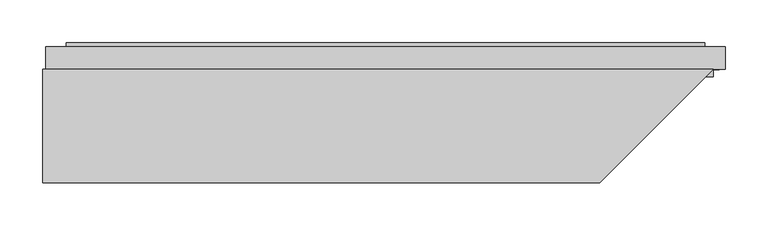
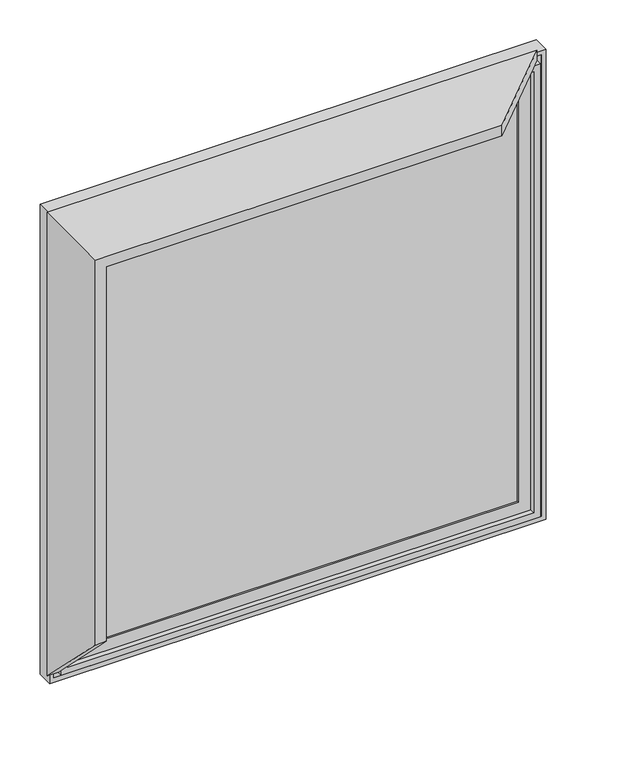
"""IFC4 building model written with IfcOpenShell, lengths in millimetres: plate geometry, SCISSOR PANEL : SCISSOR PANEL."""

from ifc_helpers import new_model, si_unit, frame, origin, place, context, project, spatial, polyline, outline, extrude, faceted_brep, source, transform, mapped, element, save


def plate_83ba0481(model_context):
    return source(origin(), model_context, "Body", "SolidModel", [
        faceted_brep([(382.5, 132.5, 782.5), (-382.5, 132.5, 782.5), (-382.5, 132.5, 17.5), (-400.0, 132.5, 17.5), (-400.0, 132.5, 800.0), (382.5, 132.5, 800.0), (-382.5, 0.0, 782.5), (-382.5, 0.0, 150.0), (-400.0, 0.0, 150.0), (250.0, 0.0, 800.0), (250.0, 0.0, 782.5), (-400.0, 0.0, 800.0)], [[[0, 1, 2, 3, 4, 5]], [[2, 1, 6, 7]], [[7, 8, 3, 2]], [[9, 10, 0, 5]], [[11, 8, 7, 6, 10, 9]], [[11, 4, 3, 8]], [[4, 11, 9, 5]], [[1, 0, 10, 6]]]),
        extrude(outline(polyline([(-369.5, 160.5), (369.5, 160.5), (369.5, 135.5), (-369.5, 135.5), (-369.5, 160.5)])), frame((0.0, 0.0, 30.5), z_axis=(0.0, 0.0, 1.0), x_axis=(1.0, 0.0, 0.0)), (0.0, 0.0, 1.0), 739.0),
        faceted_brep([(-352.5, 135.5, 752.5), (-352.5, 132.5, 752.5), (-352.5, 132.5, 47.5), (-352.5, 135.5, 47.5), (-369.5, 160.5, 769.5), (-369.5, 135.5, 769.5), (-369.5, 135.5, 30.5), (-369.5, 160.5, 30.5), (-352.5, 163.5, 752.5), (-352.5, 160.5, 752.5), (-352.5, 160.5, 47.5), (-352.5, 163.5, 47.5), (-372.5, 132.5, 772.5), (-372.5, 163.5, 772.5), (-372.5, 163.5, 27.5), (-372.5, 132.5, 27.5), (352.5, 132.5, 47.5), (352.5, 135.5, 47.5), (369.5, 135.5, 30.5), (369.5, 160.5, 30.5), (352.5, 160.5, 47.5), (352.5, 163.5, 47.5), (372.5, 163.5, 27.5), (372.5, 132.5, 27.5), (352.5, 132.5, 752.5), (352.5, 135.5, 752.5), (369.5, 135.5, 769.5), (369.5, 160.5, 769.5), (352.5, 160.5, 752.5), (352.5, 163.5, 752.5), (372.5, 163.5, 772.5), (372.5, 132.5, 772.5)], [[[0, 1, 2, 3]], [[4, 5, 6, 7]], [[8, 9, 10, 11]], [[12, 13, 14, 15]], [[3, 2, 16, 17]], [[7, 6, 18, 19]], [[11, 10, 20, 21]], [[15, 14, 22, 23]], [[17, 16, 24, 25]], [[19, 18, 26, 27]], [[21, 20, 28, 29]], [[23, 22, 30, 31]], [[15, 23, 31, 12], [1, 24, 16, 2]], [[25, 24, 1, 0]], [[5, 26, 18, 6], [3, 17, 25, 0]], [[27, 26, 5, 4]], [[7, 19, 27, 4], [9, 28, 20, 10]], [[29, 28, 9, 8]], [[13, 30, 22, 14], [11, 21, 29, 8]], [[31, 30, 13, 12]]]),
        faceted_brep([(-396.5, 132.5, 796.5), (-396.5, 158.75, 796.5), (-396.5, 158.75, 3.5), (-396.5, 132.5, 3.5), (-389.5, 150.0, 789.5), (-389.5, 132.5, 789.5), (-389.5, 132.5, 10.5), (-389.5, 150.0, 10.5), (-382.5, 123.75, 782.5), (-382.5, 150.0, 782.5), (-382.5, 150.0, 17.5), (-382.5, 123.75, 17.5), (-372.5, 158.75, 772.5), (-372.5, 123.75, 772.5), (-372.5, 123.75, 27.5), (-372.5, 158.75, 27.5), (396.5, 158.75, 3.5), (396.5, 132.5, 3.5), (389.5, 132.5, 10.5), (389.5, 150.0, 10.5), (382.5, 150.0, 17.5), (382.5, 123.75, 17.5), (372.5, 123.75, 27.5), (372.5, 158.75, 27.5), (396.5, 158.75, 796.5), (396.5, 132.5, 796.5), (389.5, 132.5, 789.5), (389.5, 150.0, 789.5), (382.5, 150.0, 782.5), (382.5, 123.75, 782.5), (372.5, 123.75, 772.5), (372.5, 158.75, 772.5)], [[[0, 1, 2, 3]], [[4, 5, 6, 7]], [[8, 9, 10, 11]], [[12, 13, 14, 15]], [[3, 2, 16, 17]], [[7, 6, 18, 19]], [[11, 10, 20, 21]], [[15, 14, 22, 23]], [[17, 16, 24, 25]], [[19, 18, 26, 27]], [[21, 20, 28, 29]], [[23, 22, 30, 31]], [[25, 24, 1, 0]], [[3, 17, 25, 0], [5, 26, 18, 6]], [[27, 26, 5, 4]], [[7, 19, 27, 4], [9, 28, 20, 10]], [[29, 28, 9, 8]], [[11, 21, 29, 8], [13, 30, 22, 14]], [[31, 30, 13, 12]], [[1, 24, 16, 2], [15, 23, 31, 12]]]),
        extrude(outline(polyline([(789.5, -389.5), (10.5, -389.5), (10.5, 389.5), (789.5, 389.5), (789.5, -389.5)]), holes=[polyline([(782.5, -382.5), (782.5, 382.5), (17.5, 382.5), (17.5, -382.5), (782.5, -382.5)])]), frame((0.0, 132.5, 0.0), z_axis=(0.0, 1.0, 0.0), x_axis=(0.0, 0.0, 1.0)), (0.0, 0.0, 1.0), 17.5),
    ])


if __name__ == "__main__":
    model = new_model("IFC4")
    model_context = context("Model", 3, world=origin())
    ifc_project = project(units=[si_unit("LENGTHUNIT", "METRE", prefix="MILLI")], contexts=[model_context])
    site = spatial("IfcSite", under=ifc_project)
    building = spatial("IfcBuilding", under=site)
    placement = place(None, origin())
    plate_shape = plate_83ba0481(model_context)
    element("IfcPlate", 1, ObjectType="SCISSOR PANEL : SCISSOR PANEL", at=placement, inside=building, context=model_context, shape_type="MappedRepresentation", body=[
        mapped(plate_shape, transform((0.0, 0.0, 0.0), x_axis=(1.0, 0.0, 0.0), y_axis=(0.0, 1.0, 0.0), z_axis=(0.0, 0.0, 1.0))),
    ])
    save(model, "model.ifc")
